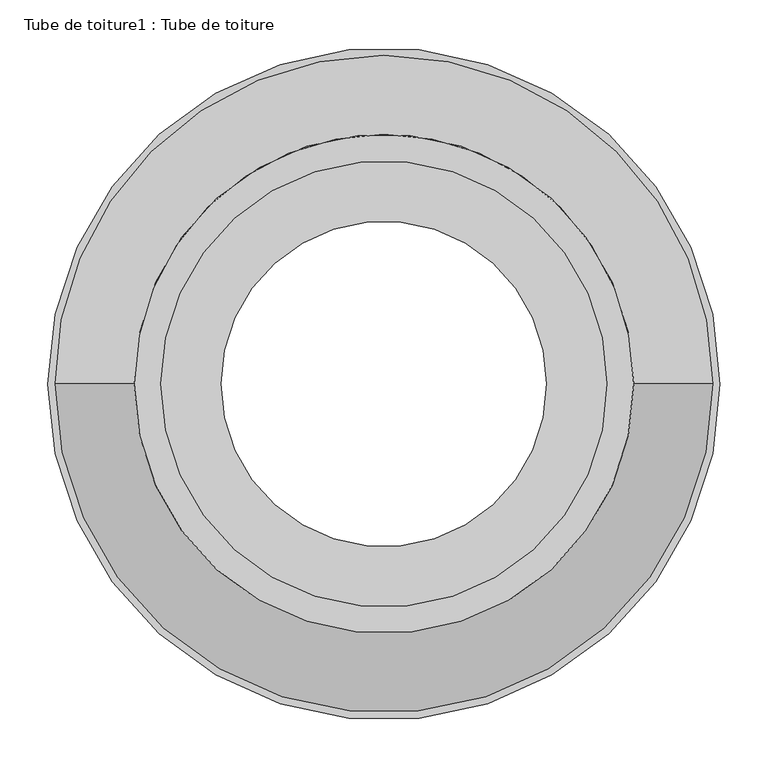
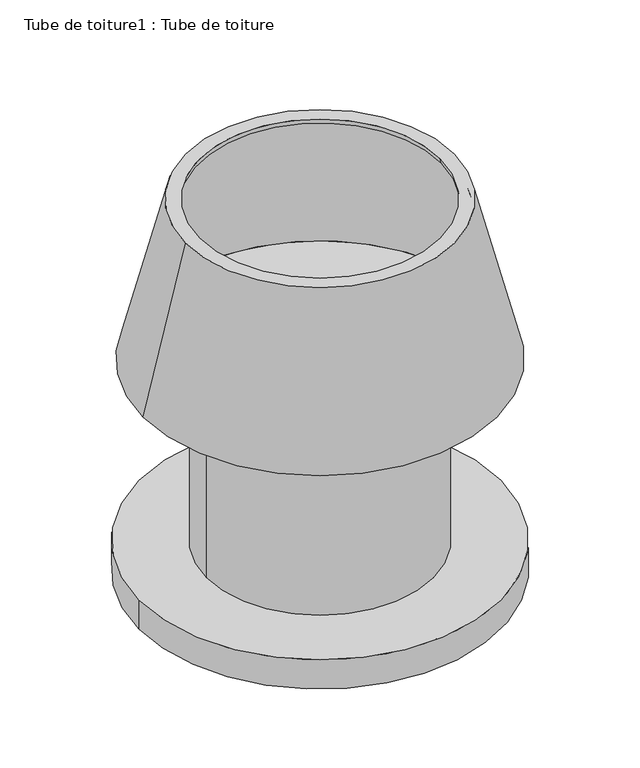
"""IFC4 building model written with IfcOpenShell, lengths in millimetres: proxy geometry, Tube de toiture1 : Tube de toiture."""

from ifc_helpers import new_model, si_unit, point, frame, frame_2d, origin, place, context, project, spatial, polyline, circle_curve, trimmed, segment, composite_curve, outline, extrude, source, transform, mapped, element, save
from ifc_brep_helpers import plane_surface, revolved_surface, advanced_brep


def tube_de_toiture1_tube_de_toiture_880e59f0(model_context):
    return source(origin(), model_context, "Body", "SolidModel", [
        advanced_brep(
        [(-15069.0597655, 21940.3392248, 6383.7851435), (-15728.4360156, 21940.3392248, 6383.7851435), (-15651.1274909, 21940.3392248, 6690.9433524), (-15146.3682901, 21940.3392248, 6690.9433524), (-15229.4369411, 21940.3392248, 6373.7851435), (-15568.05884, 21940.3392248, 6373.7851435), (-15568.05884, 21940.3392248, 6383.7851435), (-15229.4369411, 21940.3392248, 6383.7851435), (-15138.5733111, 21940.3392248, 6700.9433524), (-15658.9224699, 21940.3392248, 6700.9433524), (-15741.2647865, 21940.3392248, 6373.7851435), (-15056.2309946, 21940.3392248, 6373.7851435), (-15163.8851861, 21940.3392248, 6690.9433524), (-15633.610595, 21940.3392248, 6690.9433524), (-15631.0936991, 21940.3392248, 6700.9433524), (-15166.402082, 21940.3392248, 6700.9433524)],
        [
            (0, 1, circle_curve(frame((-15398.7478905, 21940.3392248, 6383.7851435), z_axis=(0.0, 0.0, -1.0), x_axis=(-1.0, 0.0, 0.0)), 329.688125)),
            (1, 2),
            (2, 3, circle_curve(frame((-15398.7478905, 21940.3392248, 6690.9433524), z_axis=(0.0, 0.0, 1.0), x_axis=(-1.0, 0.0, 0.0)), 252.3796004)),
            (3, 0),
            (4, 5, circle_curve(frame((-15398.7478905, 21940.3392248, 6373.7851435), z_axis=(0.0, 0.0, -1.0), x_axis=(-1.0, 0.0, 0.0)), 169.3109495)),
            (5, 6),
            (6, 7, circle_curve(frame((-15398.7478905, 21940.3392248, 6383.7851435), z_axis=(0.0, 0.0, 1.0), x_axis=(-1.0, 0.0, 0.0)), 169.3109495)),
            (7, 4),
            (8, 9, circle_curve(frame((-15398.7478905, 21940.3392248, 6700.9433524), z_axis=(0.0, 0.0, -1.0), x_axis=(-1.0, 0.0, 0.0)), 260.1745794)),
            (9, 10),
            (10, 11, circle_curve(frame((-15398.7478905, 21940.3392248, 6373.7851435), z_axis=(0.0, 0.0, 1.0), x_axis=(-1.0, 0.0, 0.0)), 342.5168959)),
            (11, 8),
            (1, 0, circle_curve(frame((-15398.7478905, 21940.3392248, 6383.7851435), z_axis=(0.0, 0.0, -1.0), x_axis=(1.0, 0.0, 0.0)), 329.688125)),
            (3, 2, circle_curve(frame((-15398.7478905, 21940.3392248, 6690.9433524), z_axis=(0.0, 0.0, 1.0), x_axis=(1.0, 0.0, 0.0)), 252.3796004)),
            (6, 7, circle_curve(frame((-15398.7478905, 21940.3392248, 6383.7851435), z_axis=(0.0, 0.0, -1.0), x_axis=(1.0, 0.0, 0.0)), 169.3109495)),
            (5, 4, circle_curve(frame((-15398.7478905, 21940.3392248, 6373.7851435), z_axis=(0.0, 0.0, -1.0), x_axis=(1.0, 0.0, 0.0)), 169.3109495)),
            (10, 11, circle_curve(frame((-15398.7478905, 21940.3392248, 6373.7851435), z_axis=(0.0, 0.0, -1.0), x_axis=(1.0, 0.0, 0.0)), 342.5168959)),
            (9, 8, circle_curve(frame((-15398.7478905, 21940.3392248, 6700.9433524), z_axis=(0.0, 0.0, -1.0), x_axis=(1.0, 0.0, 0.0)), 260.1745794)),
            (12, 13, circle_curve(frame((-15398.7478905, 21940.3392248, 6690.9433524), z_axis=(0.0, 0.0, -1.0), x_axis=(-1.0, 0.0, 0.0)), 234.8627045)),
            (13, 14),
            (14, 15, circle_curve(frame((-15398.7478905, 21940.3392248, 6700.9433524), z_axis=(0.0, 0.0, 1.0), x_axis=(-1.0, 0.0, 0.0)), 232.3458085)),
            (15, 12),
            (14, 15, circle_curve(frame((-15398.7478905, 21940.3392248, 6700.9433524), z_axis=(0.0, 0.0, -1.0), x_axis=(1.0, 0.0, 0.0)), 232.3458085)),
            (13, 12, circle_curve(frame((-15398.7478905, 21940.3392248, 6690.9433524), z_axis=(0.0, 0.0, -1.0), x_axis=(1.0, 0.0, 0.0)), 234.8627045)),
        ],
        [
            revolved_surface(polyline([(-15651.1274909, 21940.3392248, 6690.9433524), (-15728.4360156, 21940.3392248, 6383.7851435)]), (-15398.7478905, 21940.3392248, 6286.4215218), (0.0, 0.0, 1.0)),
            revolved_surface(polyline([(-15568.058840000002, 21940.3392248, 6383.7851435), (-15568.058840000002, 21940.3392248, 6373.7851435)]), (-15398.7478905, 21940.3392248, 6286.4215218), (0.0, 0.0, 1.0)),
            revolved_surface(polyline([(-15741.2647865, 21940.3392248, 6373.7851435), (-15658.9224699, 21940.3392248, 6700.9433524)]), (-15398.7478905, 21940.3392248, 6286.4215218), (0.0, 0.0, 1.0)),
            revolved_surface(polyline([(-15146.3682901, 21940.3392248, 6690.9433524), (-15069.0597655, 21940.3392248, 6383.7851435)]), (-15398.7478905, 21940.3392248, 6286.4215218), (0.0, 0.0, 1.0)),
            plane_surface(frame((-15398.7478905, 21940.3392248, 6383.7851435), z_axis=(0.0, 0.0, 1.0), x_axis=(1.0, 0.0, 0.0))),
            revolved_surface(polyline([(-15229.436941, 21940.3392248, 6383.7851435), (-15229.436941, 21940.3392248, 6373.7851435)]), (-15398.7478905, 21940.3392248, 6286.4215218), (0.0, 0.0, 1.0)),
            plane_surface(frame((-15398.7478905, 21940.3392248, 6373.7851435), z_axis=(0.0, 0.0, -1.0), x_axis=(1.0, 0.0, 0.0))),
            revolved_surface(polyline([(-15056.2309946, 21940.3392248, 6373.7851435), (-15138.5733111, 21940.3392248, 6700.9433524)]), (-15398.7478905, 21940.3392248, 6286.4215218), (0.0, 0.0, 1.0)),
            revolved_surface(polyline([(-15631.0936991, 21940.3392248, 6700.9433524), (-15633.610595, 21940.3392248, 6690.9433524)]), (-15398.7478905, 21940.3392248, 6286.4215218), (0.0, 0.0, 1.0)),
            plane_surface(frame((-15398.7478905, 21940.3392248, 6700.9433524), z_axis=(0.0, 0.0, 1.0), x_axis=(1.0, 0.0, 0.0))),
            revolved_surface(polyline([(-15166.402082, 21940.3392248, 6700.9433524), (-15163.8851861, 21940.3392248, 6690.9433524)]), (-15398.7478905, 21940.3392248, 6286.4215218), (0.0, 0.0, 1.0)),
            plane_surface(frame((-15398.7478905, 21940.3392248, 6690.9433524), z_axis=(0.0, 0.0, -1.0), x_axis=(1.0, 0.0, 0.0))),
        ],
        [
            (0, [[1, 2, 3, 4]]),
            (1, [[5, 6, 7, 8]]),
            (2, [[9, 10, 11, 12]]),
            (3, [[13, -4, 14, -2]]),
            (4, [[-13, -1], [15, -7]]),
            (5, [[16, -8, -15, -6]]),
            (6, [[17, -11], [-16, -5]]),
            (7, [[18, -12, -17, -10]]),
            (8, [[19, 20, 21, 22]]),
            (9, [[-18, -9], [23, -21]]),
            (10, [[24, -22, -23, -20]]),
            (11, [[-14, -3], [-24, -19]]),
        ],
    ),
        extrude(outline(composite_curve([segment(trimmed(circle_curve(frame_2d((-15398.7478905, 21940.3392248)), 350.0), [point((-15748.7478905, 21940.3392248))], [point((-15048.7478905, 21940.3392248))], False, "CARTESIAN"), True, "CONTINUOUS"), segment(trimmed(circle_curve(frame_2d((-15398.7478905, 21940.3392248)), 350.0), [point((-15048.7478905, 21940.3392248))], [point((-15748.7478905, 21940.3392248))], False, "CARTESIAN"), True, "CONTINUOUS")], self_intersect=False), holes=[composite_curve([segment(trimmed(circle_curve(frame_2d((-15398.7478905, 21940.3392248)), 190.0), [point((-15588.7478905, 21940.3392248))], [point((-15208.7478905, 21940.3392248))], True, "CARTESIAN"), True, "CONTINUOUS"), segment(trimmed(circle_curve(frame_2d((-15398.7478905, 21940.3392248)), 190.0), [point((-15208.7478905, 21940.3392248))], [point((-15588.7478905, 21940.3392248))], True, "CARTESIAN"), True, "CONTINUOUS")], self_intersect=False)]), frame((0.0, 0.0, 5942.2472924), z_axis=(0.0, 0.0, 1.0), x_axis=(1.0, 0.0, 0.0)), (0.0, 0.0, 1.0), 59.9746314),
        extrude(outline(composite_curve([segment(trimmed(circle_curve(frame_2d((-15398.7478905, 21940.3392248)), 220.0), [point((-15618.7478905, 21940.3392248))], [point((-15178.7478905, 21940.3392248))], False, "CARTESIAN"), True, "CONTINUOUS"), segment(trimmed(circle_curve(frame_2d((-15398.7478905, 21940.3392248)), 220.0), [point((-15178.7478905, 21940.3392248))], [point((-15618.7478905, 21940.3392248))], False, "CARTESIAN"), True, "CONTINUOUS")], self_intersect=False), holes=[composite_curve([segment(trimmed(circle_curve(frame_2d((-15398.7478905, 21940.3392248)), 190.0), [point((-15588.7478905, 21940.3392248))], [point((-15208.7478905, 21940.3392248))], True, "CARTESIAN"), True, "CONTINUOUS"), segment(trimmed(circle_curve(frame_2d((-15398.7478905, 21940.3392248)), 190.0), [point((-15208.7478905, 21940.3392248))], [point((-15588.7478905, 21940.3392248))], True, "CARTESIAN"), True, "CONTINUOUS")], self_intersect=False)]), frame((0.0, 0.0, 6002.2219238), z_axis=(0.0, 0.0, 1.0), x_axis=(1.0, 0.0, 0.0)), (0.0, 0.0, 1.0), 381.5632197),
    ])


if __name__ == "__main__":
    model = new_model("IFC4")
    model_context = context("Model", 3, world=origin())
    ifc_project = project(units=[si_unit("LENGTHUNIT", "METRE", prefix="MILLI")], contexts=[model_context])
    site = spatial("IfcSite", under=ifc_project)
    building = spatial("IfcBuilding", under=site)
    placement = place(None, origin())
    tube_de_toiture1_tube_de_toiture_shape = tube_de_toiture1_tube_de_toiture_880e59f0(model_context)
    element("IfcBuildingElementProxy", 1, Name="Tube de toiture1 : Tube de toiture", ObjectType="Tube de toiture1 : Tube de toiture", at=placement, inside=building, context=model_context, shape_type="MappedRepresentation", body=[
        mapped(tube_de_toiture1_tube_de_toiture_shape, transform((0.0, 0.0, 0.0), x_axis=(1.0, 0.0, 0.0), y_axis=(0.0, 1.0, 0.0), z_axis=(0.0, 0.0, 1.0))),
    ])
    save(model, "model.ifc")
